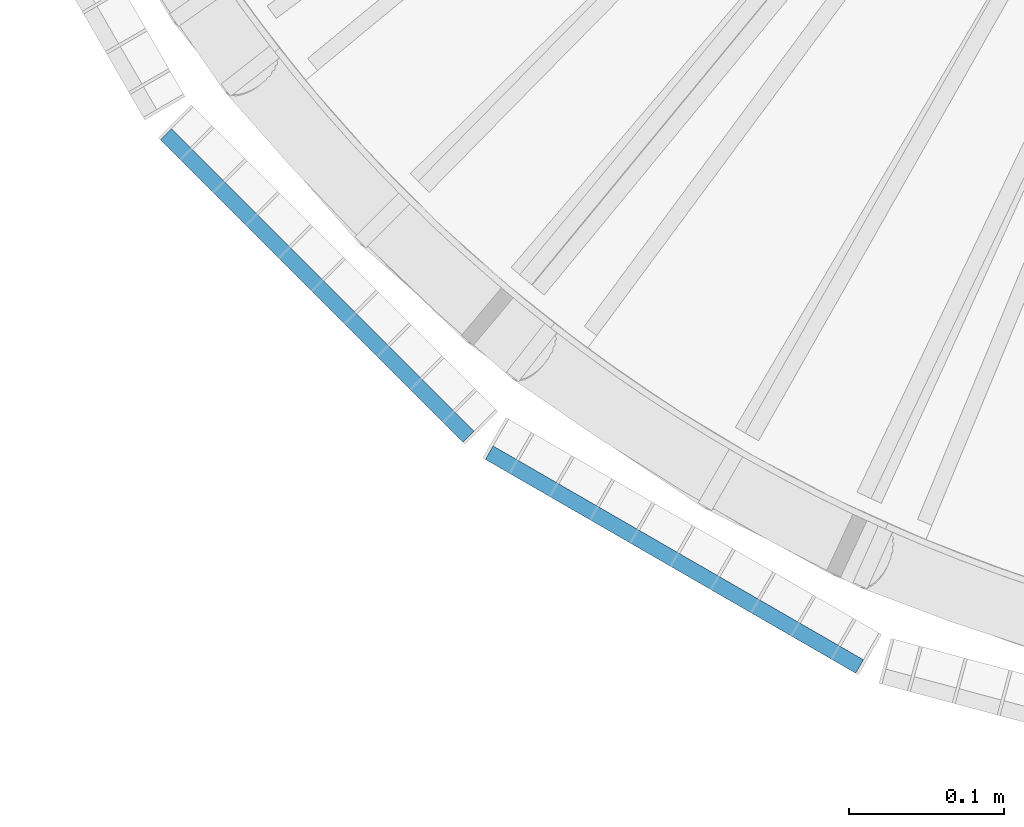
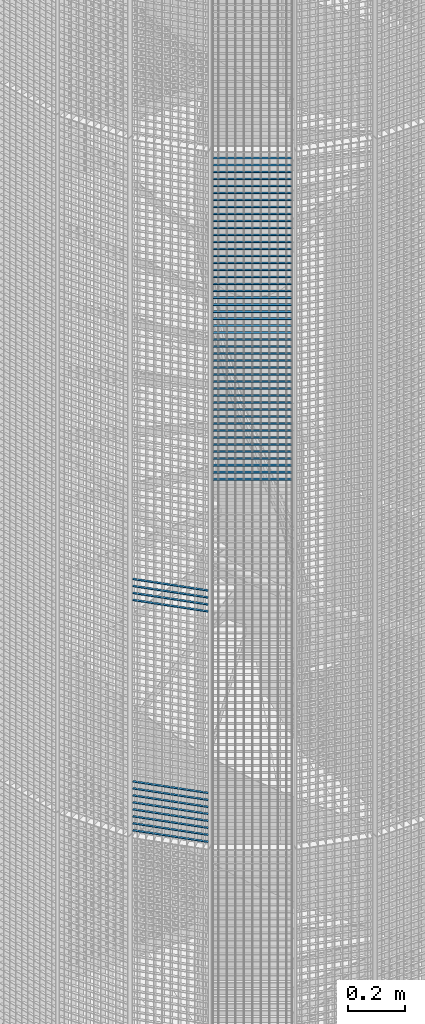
# One storey, part 350 of 1183: 59 beams, 2 elements without a shape of their own.
"""IFC2X3 building model written with IfcOpenShell, lengths in millimetres."""

from ifc_helpers import new_model, si_unit, frame, origin_with_axes, origin_2d_with_axis, place, context, subcontext, project, spatial, rectangle, extrude, material, type_object, element, aggregate, save


model = new_model("IFC2X3")

# Units and contexts
model_context = context("Model", 3, precision=1e-05, world=origin_with_axes())
body_context = subcontext(model_context, "Body", "Model", "MODEL_VIEW")
ifc_project = project(units=[si_unit("LENGTHUNIT", "METRE", prefix="MILLI"), si_unit("AREAUNIT", "SQUARE_METRE"), si_unit("VOLUMEUNIT", "CUBIC_METRE"), si_unit("MASSUNIT", "GRAM", prefix="KILO"), si_unit("TIMEUNIT", "SECOND"), si_unit("PLANEANGLEUNIT", "RADIAN"), si_unit("SOLIDANGLEUNIT", "STERADIAN"), si_unit("THERMODYNAMICTEMPERATUREUNIT", "DEGREE_CELSIUS"), si_unit("LUMINOUSINTENSITYUNIT", "LUMEN")], contexts=[model_context])

# Site, building, storey
site_placement = place(None, origin_with_axes())
site = spatial("IfcSite", under=ifc_project, at=site_placement, Name="Undefined", CompositionType="ELEMENT")
building_placement = place(site_placement, origin_with_axes())
building = spatial("IfcBuilding", under=site, at=building_placement, Name="Undefined", CompositionType="ELEMENT")
storey_placement = place(building_placement, origin_with_axes())
storey = spatial("IfcBuildingStorey", under=building, at=storey_placement, Name="Undefined", CompositionType="ELEMENT", Elevation=0.0)

# Assembly, beams
assembly_1_placement = place(storey_placement, origin_with_axes())
assembly_1 = element("IfcElementAssembly", 1, at=assembly_1_placement, inside=storey, Name="BORDURE", AssemblyPlace="NOTDEFINED", PredefinedType="NOTDEFINED")
ifc_material = material(Name="STEEL/S235JR")
beam_type = type_object("IfcBeamType", Name="PL2*10", PredefinedType="NOTDEFINED")
beam_1_placement = place(assembly_1_placement, frame((20910.2286510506, -884.927168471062, 12240.0), z_axis=(-0.70710678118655, -0.707106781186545, 0.0), x_axis=(-0.707106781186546, 0.707106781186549, 0.0)))
beam_1 = element("IfcBeam", 2, at=beam_1_placement, type_object=beam_type, material=ifc_material, Name="ENTRETOISE", context=body_context, shape_type="SweptSolid", body=[
    extrude(rectangle(XDim=2.0, YDim=10.0, at=origin_2d_with_axis()), frame((275.999999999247, 9.09494701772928e-13, 1.53210777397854e-14), z_axis=(-1.0, 0.0, 0.0), x_axis=(0.0, -1.0, 0.0)), (0.0, 0.0, 1.0), 276.0),
])
beam_2_placement = place(assembly_1_placement, frame((20910.2286510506, -884.927168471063, 13020.0), z_axis=(-0.70710678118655, -0.707106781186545, 0.0), x_axis=(-0.707106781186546, 0.707106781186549, 0.0)))
beam_2 = element("IfcBeam", 3, at=beam_2_placement, type_object=beam_type, material=ifc_material, Name="ENTRETOISE", context=body_context, shape_type="SweptSolid", body=[
    extrude(rectangle(XDim=2.0, YDim=10.0, at=origin_2d_with_axis()), frame((275.999999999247, 9.09494701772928e-13, 1.53210777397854e-14), z_axis=(-1.0, 0.0, 0.0), x_axis=(0.0, -1.0, 0.0)), (0.0, 0.0, 1.0), 276.0),
])
beam_3_placement = place(assembly_1_placement, frame((20910.2286510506, -884.927168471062, 12210.0), z_axis=(-0.70710678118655, -0.707106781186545, 0.0), x_axis=(-0.707106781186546, 0.707106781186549, 0.0)))
beam_3 = element("IfcBeam", 4, at=beam_3_placement, type_object=beam_type, material=ifc_material, Name="ENTRETOISE", context=body_context, shape_type="SweptSolid", body=[
    extrude(rectangle(XDim=2.0, YDim=10.0, at=origin_2d_with_axis()), frame((275.999999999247, 9.09494701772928e-13, 1.53210777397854e-14), z_axis=(-1.0, 0.0, 0.0), x_axis=(0.0, -1.0, 0.0)), (0.0, 0.0, 1.0), 276.0),
])
beam_4_placement = place(assembly_1_placement, frame((20910.2286510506, -884.927168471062, 12180.0), z_axis=(-0.70710678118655, -0.707106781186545, 0.0), x_axis=(-0.707106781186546, 0.707106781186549, 0.0)))
beam_4 = element("IfcBeam", 5, at=beam_4_placement, type_object=beam_type, material=ifc_material, Name="ENTRETOISE", context=body_context, shape_type="SweptSolid", body=[
    extrude(rectangle(XDim=2.0, YDim=10.0, at=origin_2d_with_axis()), frame((275.999999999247, 9.09494701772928e-13, 1.53210777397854e-14), z_axis=(-1.0, 0.0, 0.0), x_axis=(0.0, -1.0, 0.0)), (0.0, 0.0, 1.0), 276.0),
])
beam_5_placement = place(assembly_1_placement, frame((20910.2286510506, -884.927168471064, 13050.0), z_axis=(-0.70710678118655, -0.707106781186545, 0.0), x_axis=(-0.707106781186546, 0.707106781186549, 0.0)))
beam_5 = element("IfcBeam", 6, at=beam_5_placement, type_object=beam_type, material=ifc_material, Name="ENTRETOISE", context=body_context, shape_type="SweptSolid", body=[
    extrude(rectangle(XDim=2.0, YDim=10.0, at=origin_2d_with_axis()), frame((275.999999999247, 9.09494701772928e-13, 1.53210777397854e-14), z_axis=(-1.0, 0.0, 0.0), x_axis=(0.0, -1.0, 0.0)), (0.0, 0.0, 1.0), 276.0),
])
beam_6_placement = place(assembly_1_placement, frame((20910.2286510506, -884.927168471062, 12150.0), z_axis=(-0.70710678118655, -0.707106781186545, 0.0), x_axis=(-0.707106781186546, 0.707106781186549, 0.0)))
beam_6 = element("IfcBeam", 7, at=beam_6_placement, type_object=beam_type, material=ifc_material, Name="ENTRETOISE", context=body_context, shape_type="SweptSolid", body=[
    extrude(rectangle(XDim=2.0, YDim=10.0, at=origin_2d_with_axis()), frame((275.999999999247, 9.09494701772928e-13, 1.53210777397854e-14), z_axis=(-1.0, 0.0, 0.0), x_axis=(0.0, -1.0, 0.0)), (0.0, 0.0, 1.0), 276.0),
])
beam_7_placement = place(assembly_1_placement, frame((20910.2286510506, -884.927168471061, 12120.0), z_axis=(-0.70710678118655, -0.707106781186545, 0.0), x_axis=(-0.707106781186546, 0.707106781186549, 0.0)))
beam_7 = element("IfcBeam", 8, at=beam_7_placement, type_object=beam_type, material=ifc_material, Name="ENTRETOISE", context=body_context, shape_type="SweptSolid", body=[
    extrude(rectangle(XDim=2.0, YDim=10.0, at=origin_2d_with_axis()), frame((275.999999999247, 9.09494701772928e-13, 1.53210777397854e-14), z_axis=(-1.0, 0.0, 0.0), x_axis=(0.0, -1.0, 0.0)), (0.0, 0.0, 1.0), 276.0),
])
beam_8_placement = place(assembly_1_placement, frame((20910.2286510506, -884.927168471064, 13080.0), z_axis=(-0.70710678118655, -0.707106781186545, 0.0), x_axis=(-0.707106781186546, 0.707106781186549, 0.0)))
beam_8 = element("IfcBeam", 9, at=beam_8_placement, type_object=beam_type, material=ifc_material, Name="ENTRETOISE", context=body_context, shape_type="SweptSolid", body=[
    extrude(rectangle(XDim=2.0, YDim=10.0, at=origin_2d_with_axis()), frame((275.999999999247, 9.09494701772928e-13, 1.53210777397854e-14), z_axis=(-1.0, 0.0, 0.0), x_axis=(0.0, -1.0, 0.0)), (0.0, 0.0, 1.0), 276.0),
])
beam_9_placement = place(assembly_1_placement, frame((20910.2286510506, -884.927168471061, 12090.0), z_axis=(-0.70710678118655, -0.707106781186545, 0.0), x_axis=(-0.707106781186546, 0.707106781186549, 0.0)))
beam_9 = element("IfcBeam", 10, at=beam_9_placement, type_object=beam_type, material=ifc_material, Name="ENTRETOISE", context=body_context, shape_type="SweptSolid", body=[
    extrude(rectangle(XDim=2.0, YDim=10.0, at=origin_2d_with_axis()), frame((275.999999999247, 9.09494701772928e-13, 1.53210777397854e-14), z_axis=(-1.0, 0.0, 0.0), x_axis=(0.0, -1.0, 0.0)), (0.0, 0.0, 1.0), 276.0),
])
beam_10_placement = place(assembly_1_placement, frame((20910.2286510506, -884.927168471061, 12060.0), z_axis=(-0.70710678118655, -0.707106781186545, 0.0), x_axis=(-0.707106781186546, 0.707106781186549, 0.0)))
beam_10 = element("IfcBeam", 11, at=beam_10_placement, type_object=beam_type, material=ifc_material, Name="ENTRETOISE", context=body_context, shape_type="SweptSolid", body=[
    extrude(rectangle(XDim=2.0, YDim=10.0, at=origin_2d_with_axis()), frame((275.999999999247, 9.09494701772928e-13, 1.53210777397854e-14), z_axis=(-1.0, 0.0, 0.0), x_axis=(0.0, -1.0, 0.0)), (0.0, 0.0, 1.0), 276.0),
])
beam_11_placement = place(assembly_1_placement, frame((20910.2286510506, -884.927168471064, 13110.0), z_axis=(-0.70710678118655, -0.707106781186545, 0.0), x_axis=(-0.707106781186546, 0.707106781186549, 0.0)))
beam_11 = element("IfcBeam", 12, at=beam_11_placement, type_object=beam_type, material=ifc_material, Name="ENTRETOISE", context=body_context, shape_type="SweptSolid", body=[
    extrude(rectangle(XDim=2.0, YDim=10.0, at=origin_2d_with_axis()), frame((275.999999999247, 9.09494701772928e-13, 1.53210777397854e-14), z_axis=(-1.0, 0.0, 0.0), x_axis=(0.0, -1.0, 0.0)), (0.0, 0.0, 1.0), 276.0),
])
beam_12_placement = place(assembly_1_placement, frame((20910.2286510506, -884.92716847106, 12030.0), z_axis=(-0.70710678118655, -0.707106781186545, 0.0), x_axis=(-0.707106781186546, 0.707106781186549, 0.0)))
beam_12 = element("IfcBeam", 13, at=beam_12_placement, type_object=beam_type, material=ifc_material, Name="ENTRETOISE", context=body_context, shape_type="SweptSolid", body=[
    extrude(rectangle(XDim=2.0, YDim=10.0, at=origin_2d_with_axis()), frame((275.999999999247, 9.09494701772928e-13, 1.53210777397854e-14), z_axis=(-1.0, 0.0, 0.0), x_axis=(0.0, -1.0, 0.0)), (0.0, 0.0, 1.0), 276.0),
])
aggregate(assembly_1, [beam_1, beam_2, beam_3, beam_4, beam_5, beam_6, beam_7, beam_8, beam_9, beam_10, beam_11, beam_12])

assembly_2_placement = place(storey_placement, origin_with_axes())
assembly_2 = element("IfcElementAssembly", 14, at=assembly_2_placement, inside=storey, Name="BORDURE", AssemblyPlace="NOTDEFINED", PredefinedType="NOTDEFINED")
beam_13_placement = place(assembly_2_placement, frame((21162.7680445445, -1033.29996828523, 14970.0), z_axis=(-0.49999999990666, -0.866025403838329, 0.0), x_axis=(-0.866025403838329, 0.499999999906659, 0.0)))
beam_13 = element("IfcBeam", 15, at=beam_13_placement, type_object=beam_type, material=ifc_material, Name="ENTRETOISE", context=body_context, shape_type="SweptSolid", body=[
    extrude(rectangle(XDim=2.0, YDim=10.0, at=origin_2d_with_axis()), frame((275.999999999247, 9.09494701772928e-13, 1.53210777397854e-14), z_axis=(-1.0, 0.0, 0.0), x_axis=(0.0, -1.0, 0.0)), (0.0, 0.0, 1.0), 276.0),
])
beam_14_placement = place(assembly_2_placement, frame((21162.7680445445, -1033.29996828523, 14940.0), z_axis=(-0.49999999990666, -0.866025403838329, 0.0), x_axis=(-0.866025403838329, 0.499999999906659, 0.0)))
beam_14 = element("IfcBeam", 16, at=beam_14_placement, type_object=beam_type, material=ifc_material, Name="ENTRETOISE", context=body_context, shape_type="SweptSolid", body=[
    extrude(rectangle(XDim=2.0, YDim=10.0, at=origin_2d_with_axis()), frame((275.999999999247, 9.09494701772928e-13, 1.53210777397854e-14), z_axis=(-1.0, 0.0, 0.0), x_axis=(0.0, -1.0, 0.0)), (0.0, 0.0, 1.0), 276.0),
])
beam_15_placement = place(assembly_2_placement, frame((21162.7680445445, -1033.29996828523, 14910.0), z_axis=(-0.49999999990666, -0.866025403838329, 0.0), x_axis=(-0.866025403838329, 0.499999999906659, 0.0)))
beam_15 = element("IfcBeam", 17, at=beam_15_placement, type_object=beam_type, material=ifc_material, Name="ENTRETOISE", context=body_context, shape_type="SweptSolid", body=[
    extrude(rectangle(XDim=2.0, YDim=10.0, at=origin_2d_with_axis()), frame((275.999999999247, 9.09494701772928e-13, 1.53210777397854e-14), z_axis=(-1.0, 0.0, 0.0), x_axis=(0.0, -1.0, 0.0)), (0.0, 0.0, 1.0), 276.0),
])
beam_16_placement = place(assembly_2_placement, frame((21162.7680445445, -1033.29996828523, 14880.0), z_axis=(-0.49999999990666, -0.866025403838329, 0.0), x_axis=(-0.866025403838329, 0.499999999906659, 0.0)))
beam_16 = element("IfcBeam", 18, at=beam_16_placement, type_object=beam_type, material=ifc_material, Name="ENTRETOISE", context=body_context, shape_type="SweptSolid", body=[
    extrude(rectangle(XDim=2.0, YDim=10.0, at=origin_2d_with_axis()), frame((275.999999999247, 9.09494701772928e-13, 1.53210777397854e-14), z_axis=(-1.0, 0.0, 0.0), x_axis=(0.0, -1.0, 0.0)), (0.0, 0.0, 1.0), 276.0),
])
beam_17_placement = place(assembly_2_placement, frame((21162.7680445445, -1033.29996828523, 14850.0), z_axis=(-0.49999999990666, -0.866025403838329, 0.0), x_axis=(-0.866025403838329, 0.499999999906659, 0.0)))
beam_17 = element("IfcBeam", 19, at=beam_17_placement, type_object=beam_type, material=ifc_material, Name="ENTRETOISE", context=body_context, shape_type="SweptSolid", body=[
    extrude(rectangle(XDim=2.0, YDim=10.0, at=origin_2d_with_axis()), frame((275.999999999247, 9.09494701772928e-13, 1.53210777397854e-14), z_axis=(-1.0, 0.0, 0.0), x_axis=(0.0, -1.0, 0.0)), (0.0, 0.0, 1.0), 276.0),
])
beam_18_placement = place(assembly_2_placement, frame((21162.7680445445, -1033.29996828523, 14820.0), z_axis=(-0.49999999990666, -0.866025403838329, 0.0), x_axis=(-0.866025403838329, 0.499999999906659, 0.0)))
beam_18 = element("IfcBeam", 20, at=beam_18_placement, type_object=beam_type, material=ifc_material, Name="ENTRETOISE", context=body_context, shape_type="SweptSolid", body=[
    extrude(rectangle(XDim=2.0, YDim=10.0, at=origin_2d_with_axis()), frame((275.999999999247, 9.09494701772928e-13, 1.53210777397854e-14), z_axis=(-1.0, 0.0, 0.0), x_axis=(0.0, -1.0, 0.0)), (0.0, 0.0, 1.0), 276.0),
])
beam_19_placement = place(assembly_2_placement, frame((21162.7680445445, -1033.29996828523, 14790.0), z_axis=(-0.49999999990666, -0.866025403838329, 0.0), x_axis=(-0.866025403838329, 0.499999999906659, 0.0)))
beam_19 = element("IfcBeam", 21, at=beam_19_placement, type_object=beam_type, material=ifc_material, Name="ENTRETOISE", context=body_context, shape_type="SweptSolid", body=[
    extrude(rectangle(XDim=2.0, YDim=10.0, at=origin_2d_with_axis()), frame((275.999999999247, 9.09494701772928e-13, 1.53210777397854e-14), z_axis=(-1.0, 0.0, 0.0), x_axis=(0.0, -1.0, 0.0)), (0.0, 0.0, 1.0), 276.0),
])
beam_20_placement = place(assembly_2_placement, frame((21162.7680445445, -1033.29996828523, 14760.0), z_axis=(-0.49999999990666, -0.866025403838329, 0.0), x_axis=(-0.866025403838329, 0.499999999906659, 0.0)))
beam_20 = element("IfcBeam", 22, at=beam_20_placement, type_object=beam_type, material=ifc_material, Name="ENTRETOISE", context=body_context, shape_type="SweptSolid", body=[
    extrude(rectangle(XDim=2.0, YDim=10.0, at=origin_2d_with_axis()), frame((275.999999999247, 9.09494701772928e-13, 1.53210777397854e-14), z_axis=(-1.0, 0.0, 0.0), x_axis=(0.0, -1.0, 0.0)), (0.0, 0.0, 1.0), 276.0),
])
beam_21_placement = place(assembly_2_placement, frame((21162.7680445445, -1033.29996828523, 14730.0), z_axis=(-0.49999999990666, -0.866025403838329, 0.0), x_axis=(-0.866025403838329, 0.499999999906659, 0.0)))
beam_21 = element("IfcBeam", 23, at=beam_21_placement, type_object=beam_type, material=ifc_material, Name="ENTRETOISE", context=body_context, shape_type="SweptSolid", body=[
    extrude(rectangle(XDim=2.0, YDim=10.0, at=origin_2d_with_axis()), frame((275.999999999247, 9.09494701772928e-13, 1.53210777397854e-14), z_axis=(-1.0, 0.0, 0.0), x_axis=(0.0, -1.0, 0.0)), (0.0, 0.0, 1.0), 276.0),
])
beam_22_placement = place(assembly_2_placement, frame((21162.7680445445, -1033.29996828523, 14700.0), z_axis=(-0.49999999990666, -0.866025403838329, 0.0), x_axis=(-0.866025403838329, 0.499999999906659, 0.0)))
beam_22 = element("IfcBeam", 24, at=beam_22_placement, type_object=beam_type, material=ifc_material, Name="ENTRETOISE", context=body_context, shape_type="SweptSolid", body=[
    extrude(rectangle(XDim=2.0, YDim=10.0, at=origin_2d_with_axis()), frame((275.999999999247, 9.09494701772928e-13, 1.53210777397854e-14), z_axis=(-1.0, 0.0, 0.0), x_axis=(0.0, -1.0, 0.0)), (0.0, 0.0, 1.0), 276.0),
])
beam_23_placement = place(assembly_2_placement, frame((21162.7680445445, -1033.29996828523, 14670.0), z_axis=(-0.49999999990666, -0.866025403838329, 0.0), x_axis=(-0.866025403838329, 0.499999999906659, 0.0)))
beam_23 = element("IfcBeam", 25, at=beam_23_placement, type_object=beam_type, material=ifc_material, Name="ENTRETOISE", context=body_context, shape_type="SweptSolid", body=[
    extrude(rectangle(XDim=2.0, YDim=10.0, at=origin_2d_with_axis()), frame((275.999999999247, 9.09494701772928e-13, 1.53210777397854e-14), z_axis=(-1.0, 0.0, 0.0), x_axis=(0.0, -1.0, 0.0)), (0.0, 0.0, 1.0), 276.0),
])
beam_24_placement = place(assembly_2_placement, frame((21162.7680445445, -1033.29996828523, 14640.0), z_axis=(-0.49999999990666, -0.866025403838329, 0.0), x_axis=(-0.866025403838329, 0.499999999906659, 0.0)))
beam_24 = element("IfcBeam", 26, at=beam_24_placement, type_object=beam_type, material=ifc_material, Name="ENTRETOISE", context=body_context, shape_type="SweptSolid", body=[
    extrude(rectangle(XDim=2.0, YDim=10.0, at=origin_2d_with_axis()), frame((275.999999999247, 9.09494701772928e-13, 1.53210777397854e-14), z_axis=(-1.0, 0.0, 0.0), x_axis=(0.0, -1.0, 0.0)), (0.0, 0.0, 1.0), 276.0),
])
beam_25_placement = place(assembly_2_placement, frame((21162.7680445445, -1033.29996828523, 14610.0), z_axis=(-0.49999999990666, -0.866025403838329, 0.0), x_axis=(-0.866025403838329, 0.499999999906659, 0.0)))
beam_25 = element("IfcBeam", 27, at=beam_25_placement, type_object=beam_type, material=ifc_material, Name="ENTRETOISE", context=body_context, shape_type="SweptSolid", body=[
    extrude(rectangle(XDim=2.0, YDim=10.0, at=origin_2d_with_axis()), frame((275.999999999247, 9.09494701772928e-13, 1.53210777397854e-14), z_axis=(-1.0, 0.0, 0.0), x_axis=(0.0, -1.0, 0.0)), (0.0, 0.0, 1.0), 276.0),
])
beam_26_placement = place(assembly_2_placement, frame((21162.7680445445, -1033.29996828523, 14580.0), z_axis=(-0.49999999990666, -0.866025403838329, 0.0), x_axis=(-0.866025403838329, 0.499999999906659, 0.0)))
beam_26 = element("IfcBeam", 28, at=beam_26_placement, type_object=beam_type, material=ifc_material, Name="ENTRETOISE", context=body_context, shape_type="SweptSolid", body=[
    extrude(rectangle(XDim=2.0, YDim=10.0, at=origin_2d_with_axis()), frame((275.999999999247, 9.09494701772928e-13, 1.53210777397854e-14), z_axis=(-1.0, 0.0, 0.0), x_axis=(0.0, -1.0, 0.0)), (0.0, 0.0, 1.0), 276.0),
])
beam_27_placement = place(assembly_2_placement, frame((21162.7680445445, -1033.29996828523, 14550.0), z_axis=(-0.49999999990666, -0.866025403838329, 0.0), x_axis=(-0.866025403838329, 0.499999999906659, 0.0)))
beam_27 = element("IfcBeam", 29, at=beam_27_placement, type_object=beam_type, material=ifc_material, Name="ENTRETOISE", context=body_context, shape_type="SweptSolid", body=[
    extrude(rectangle(XDim=2.0, YDim=10.0, at=origin_2d_with_axis()), frame((275.999999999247, 9.09494701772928e-13, 1.53210777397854e-14), z_axis=(-1.0, 0.0, 0.0), x_axis=(0.0, -1.0, 0.0)), (0.0, 0.0, 1.0), 276.0),
])
beam_28_placement = place(assembly_2_placement, frame((21162.7680445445, -1033.29996828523, 14520.0), z_axis=(-0.49999999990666, -0.866025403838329, 0.0), x_axis=(-0.866025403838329, 0.499999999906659, 0.0)))
beam_28 = element("IfcBeam", 30, at=beam_28_placement, type_object=beam_type, material=ifc_material, Name="ENTRETOISE", context=body_context, shape_type="SweptSolid", body=[
    extrude(rectangle(XDim=2.0, YDim=10.0, at=origin_2d_with_axis()), frame((275.999999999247, 9.09494701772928e-13, 1.53210777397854e-14), z_axis=(-1.0, 0.0, 0.0), x_axis=(0.0, -1.0, 0.0)), (0.0, 0.0, 1.0), 276.0),
])
beam_29_placement = place(assembly_2_placement, frame((21162.7680445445, -1033.29996828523, 14490.0), z_axis=(-0.49999999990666, -0.866025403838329, 0.0), x_axis=(-0.866025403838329, 0.499999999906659, 0.0)))
beam_29 = element("IfcBeam", 31, at=beam_29_placement, type_object=beam_type, material=ifc_material, Name="ENTRETOISE", context=body_context, shape_type="SweptSolid", body=[
    extrude(rectangle(XDim=2.0, YDim=10.0, at=origin_2d_with_axis()), frame((275.999999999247, 9.09494701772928e-13, 1.53210777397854e-14), z_axis=(-1.0, 0.0, 0.0), x_axis=(0.0, -1.0, 0.0)), (0.0, 0.0, 1.0), 276.0),
])
beam_30_placement = place(assembly_2_placement, frame((21162.7680445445, -1033.29996828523, 14460.0), z_axis=(-0.49999999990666, -0.866025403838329, 0.0), x_axis=(-0.866025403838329, 0.499999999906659, 0.0)))
beam_30 = element("IfcBeam", 32, at=beam_30_placement, type_object=beam_type, material=ifc_material, Name="ENTRETOISE", context=body_context, shape_type="SweptSolid", body=[
    extrude(rectangle(XDim=2.0, YDim=10.0, at=origin_2d_with_axis()), frame((275.999999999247, 9.09494701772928e-13, 1.53210777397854e-14), z_axis=(-1.0, 0.0, 0.0), x_axis=(0.0, -1.0, 0.0)), (0.0, 0.0, 1.0), 276.0),
])
beam_31_placement = place(assembly_2_placement, frame((21162.7680445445, -1033.29996828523, 14430.0), z_axis=(-0.49999999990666, -0.866025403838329, 0.0), x_axis=(-0.866025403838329, 0.499999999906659, 0.0)))
beam_31 = element("IfcBeam", 33, at=beam_31_placement, type_object=beam_type, material=ifc_material, Name="ENTRETOISE", context=body_context, shape_type="SweptSolid", body=[
    extrude(rectangle(XDim=2.0, YDim=10.0, at=origin_2d_with_axis()), frame((275.999999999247, 9.09494701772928e-13, 1.53210777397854e-14), z_axis=(-1.0, 0.0, 0.0), x_axis=(0.0, -1.0, 0.0)), (0.0, 0.0, 1.0), 276.0),
])
beam_32_placement = place(assembly_2_placement, frame((21162.7680445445, -1033.29996828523, 14400.0), z_axis=(-0.49999999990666, -0.866025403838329, 0.0), x_axis=(-0.866025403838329, 0.499999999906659, 0.0)))
beam_32 = element("IfcBeam", 34, at=beam_32_placement, type_object=beam_type, material=ifc_material, Name="ENTRETOISE", context=body_context, shape_type="SweptSolid", body=[
    extrude(rectangle(XDim=2.0, YDim=10.0, at=origin_2d_with_axis()), frame((275.999999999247, 9.09494701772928e-13, 1.53210777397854e-14), z_axis=(-1.0, 0.0, 0.0), x_axis=(0.0, -1.0, 0.0)), (0.0, 0.0, 1.0), 276.0),
])
beam_33_placement = place(assembly_2_placement, frame((21162.7680445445, -1033.29996828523, 14370.0), z_axis=(-0.49999999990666, -0.866025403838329, 0.0), x_axis=(-0.866025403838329, 0.499999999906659, 0.0)))
beam_33 = element("IfcBeam", 35, at=beam_33_placement, type_object=beam_type, material=ifc_material, Name="ENTRETOISE", context=body_context, shape_type="SweptSolid", body=[
    extrude(rectangle(XDim=2.0, YDim=10.0, at=origin_2d_with_axis()), frame((275.999999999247, 9.09494701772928e-13, 1.53210777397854e-14), z_axis=(-1.0, 0.0, 0.0), x_axis=(0.0, -1.0, 0.0)), (0.0, 0.0, 1.0), 276.0),
])
beam_34_placement = place(assembly_2_placement, frame((21162.7680445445, -1033.29996828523, 14340.0), z_axis=(-0.49999999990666, -0.866025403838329, 0.0), x_axis=(-0.866025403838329, 0.499999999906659, 0.0)))
beam_34 = element("IfcBeam", 36, at=beam_34_placement, type_object=beam_type, material=ifc_material, Name="ENTRETOISE", context=body_context, shape_type="SweptSolid", body=[
    extrude(rectangle(XDim=2.0, YDim=10.0, at=origin_2d_with_axis()), frame((275.999999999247, 9.09494701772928e-13, 1.53210777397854e-14), z_axis=(-1.0, 0.0, 0.0), x_axis=(0.0, -1.0, 0.0)), (0.0, 0.0, 1.0), 276.0),
])
beam_35_placement = place(assembly_2_placement, frame((21162.7680445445, -1033.29996828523, 14310.0), z_axis=(-0.49999999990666, -0.866025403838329, 0.0), x_axis=(-0.866025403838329, 0.499999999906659, 0.0)))
beam_35 = element("IfcBeam", 37, at=beam_35_placement, type_object=beam_type, material=ifc_material, Name="ENTRETOISE", context=body_context, shape_type="SweptSolid", body=[
    extrude(rectangle(XDim=2.0, YDim=10.0, at=origin_2d_with_axis()), frame((275.999999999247, 9.09494701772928e-13, 1.53210777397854e-14), z_axis=(-1.0, 0.0, 0.0), x_axis=(0.0, -1.0, 0.0)), (0.0, 0.0, 1.0), 276.0),
])
beam_36_placement = place(assembly_2_placement, frame((21162.7680445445, -1033.29996828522, 14280.0), z_axis=(-0.49999999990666, -0.866025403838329, 0.0), x_axis=(-0.866025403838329, 0.499999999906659, 0.0)))
beam_36 = element("IfcBeam", 38, at=beam_36_placement, type_object=beam_type, material=ifc_material, Name="ENTRETOISE", context=body_context, shape_type="SweptSolid", body=[
    extrude(rectangle(XDim=2.0, YDim=10.0, at=origin_2d_with_axis()), frame((275.999999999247, 9.09494701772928e-13, 1.53210777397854e-14), z_axis=(-1.0, 0.0, 0.0), x_axis=(0.0, -1.0, 0.0)), (0.0, 0.0, 1.0), 276.0),
])
beam_37_placement = place(assembly_2_placement, frame((21162.7680445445, -1033.29996828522, 14250.0), z_axis=(-0.49999999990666, -0.866025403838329, 0.0), x_axis=(-0.866025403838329, 0.499999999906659, 0.0)))
beam_37 = element("IfcBeam", 39, at=beam_37_placement, type_object=beam_type, material=ifc_material, Name="ENTRETOISE", context=body_context, shape_type="SweptSolid", body=[
    extrude(rectangle(XDim=2.0, YDim=10.0, at=origin_2d_with_axis()), frame((275.999999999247, 9.09494701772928e-13, 1.53210777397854e-14), z_axis=(-1.0, 0.0, 0.0), x_axis=(0.0, -1.0, 0.0)), (0.0, 0.0, 1.0), 276.0),
])
beam_38_placement = place(assembly_2_placement, frame((21162.7680445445, -1033.29996828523, 14220.0), z_axis=(-0.49999999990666, -0.866025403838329, 0.0), x_axis=(-0.866025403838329, 0.499999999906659, 0.0)))
beam_38 = element("IfcBeam", 40, at=beam_38_placement, type_object=beam_type, material=ifc_material, Name="ENTRETOISE", context=body_context, shape_type="SweptSolid", body=[
    extrude(rectangle(XDim=2.0, YDim=10.0, at=origin_2d_with_axis()), frame((275.999999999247, 9.09494701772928e-13, 1.53210777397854e-14), z_axis=(-1.0, 0.0, 0.0), x_axis=(0.0, -1.0, 0.0)), (0.0, 0.0, 1.0), 276.0),
])
beam_39_placement = place(assembly_2_placement, frame((21162.7680445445, -1033.29996828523, 14190.0), z_axis=(-0.49999999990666, -0.866025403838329, 0.0), x_axis=(-0.866025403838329, 0.499999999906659, 0.0)))
beam_39 = element("IfcBeam", 41, at=beam_39_placement, type_object=beam_type, material=ifc_material, Name="ENTRETOISE", context=body_context, shape_type="SweptSolid", body=[
    extrude(rectangle(XDim=2.0, YDim=10.0, at=origin_2d_with_axis()), frame((275.999999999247, 9.09494701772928e-13, 1.53210777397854e-14), z_axis=(-1.0, 0.0, 0.0), x_axis=(0.0, -1.0, 0.0)), (0.0, 0.0, 1.0), 276.0),
])
beam_40_placement = place(assembly_2_placement, frame((21162.7680445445, -1033.29996828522, 14160.0), z_axis=(-0.49999999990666, -0.866025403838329, 0.0), x_axis=(-0.866025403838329, 0.499999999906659, 0.0)))
beam_40 = element("IfcBeam", 42, at=beam_40_placement, type_object=beam_type, material=ifc_material, Name="ENTRETOISE", context=body_context, shape_type="SweptSolid", body=[
    extrude(rectangle(XDim=2.0, YDim=10.0, at=origin_2d_with_axis()), frame((275.999999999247, 9.09494701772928e-13, 1.53210777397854e-14), z_axis=(-1.0, 0.0, 0.0), x_axis=(0.0, -1.0, 0.0)), (0.0, 0.0, 1.0), 276.0),
])
beam_41_placement = place(assembly_2_placement, frame((21162.7680445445, -1033.29996828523, 14130.0), z_axis=(-0.49999999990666, -0.866025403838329, 0.0), x_axis=(-0.866025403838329, 0.499999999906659, 0.0)))
beam_41 = element("IfcBeam", 43, at=beam_41_placement, type_object=beam_type, material=ifc_material, Name="ENTRETOISE", context=body_context, shape_type="SweptSolid", body=[
    extrude(rectangle(XDim=2.0, YDim=10.0, at=origin_2d_with_axis()), frame((275.999999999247, 9.09494701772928e-13, 1.53210777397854e-14), z_axis=(-1.0, 0.0, 0.0), x_axis=(0.0, -1.0, 0.0)), (0.0, 0.0, 1.0), 276.0),
])
beam_42_placement = place(assembly_2_placement, frame((21162.7680445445, -1033.29996828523, 14100.0), z_axis=(-0.49999999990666, -0.866025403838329, 0.0), x_axis=(-0.866025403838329, 0.499999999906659, 0.0)))
beam_42 = element("IfcBeam", 44, at=beam_42_placement, type_object=beam_type, material=ifc_material, Name="ENTRETOISE", context=body_context, shape_type="SweptSolid", body=[
    extrude(rectangle(XDim=2.0, YDim=10.0, at=origin_2d_with_axis()), frame((275.999999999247, 9.09494701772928e-13, 1.53210777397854e-14), z_axis=(-1.0, 0.0, 0.0), x_axis=(0.0, -1.0, 0.0)), (0.0, 0.0, 1.0), 276.0),
])
beam_43_placement = place(assembly_2_placement, frame((21162.7680445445, -1033.29996828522, 14070.0), z_axis=(-0.49999999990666, -0.866025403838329, 0.0), x_axis=(-0.866025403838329, 0.499999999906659, 0.0)))
beam_43 = element("IfcBeam", 45, at=beam_43_placement, type_object=beam_type, material=ifc_material, Name="ENTRETOISE", context=body_context, shape_type="SweptSolid", body=[
    extrude(rectangle(XDim=2.0, YDim=10.0, at=origin_2d_with_axis()), frame((275.999999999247, 9.09494701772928e-13, 1.53210777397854e-14), z_axis=(-1.0, 0.0, 0.0), x_axis=(0.0, -1.0, 0.0)), (0.0, 0.0, 1.0), 276.0),
])
beam_44_placement = place(assembly_2_placement, frame((21162.7680445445, -1033.29996828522, 14040.0), z_axis=(-0.49999999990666, -0.866025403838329, 0.0), x_axis=(-0.866025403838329, 0.499999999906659, 0.0)))
beam_44 = element("IfcBeam", 46, at=beam_44_placement, type_object=beam_type, material=ifc_material, Name="ENTRETOISE", context=body_context, shape_type="SweptSolid", body=[
    extrude(rectangle(XDim=2.0, YDim=10.0, at=origin_2d_with_axis()), frame((275.999999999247, 9.09494701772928e-13, 1.53210777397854e-14), z_axis=(-1.0, 0.0, 0.0), x_axis=(0.0, -1.0, 0.0)), (0.0, 0.0, 1.0), 276.0),
])
beam_45_placement = place(assembly_2_placement, frame((21162.7680445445, -1033.29996828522, 14010.0), z_axis=(-0.49999999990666, -0.866025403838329, 0.0), x_axis=(-0.866025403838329, 0.499999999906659, 0.0)))
beam_45 = element("IfcBeam", 47, at=beam_45_placement, type_object=beam_type, material=ifc_material, Name="ENTRETOISE", context=body_context, shape_type="SweptSolid", body=[
    extrude(rectangle(XDim=2.0, YDim=10.0, at=origin_2d_with_axis()), frame((275.999999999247, 9.09494701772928e-13, 1.53210777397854e-14), z_axis=(-1.0, 0.0, 0.0), x_axis=(0.0, -1.0, 0.0)), (0.0, 0.0, 1.0), 276.0),
])
beam_46_placement = place(assembly_2_placement, frame((21162.7680445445, -1033.29996828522, 13980.0), z_axis=(-0.49999999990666, -0.866025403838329, 0.0), x_axis=(-0.866025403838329, 0.499999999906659, 0.0)))
beam_46 = element("IfcBeam", 48, at=beam_46_placement, type_object=beam_type, material=ifc_material, Name="ENTRETOISE", context=body_context, shape_type="SweptSolid", body=[
    extrude(rectangle(XDim=2.0, YDim=10.0, at=origin_2d_with_axis()), frame((275.999999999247, 9.09494701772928e-13, 1.53210777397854e-14), z_axis=(-1.0, 0.0, 0.0), x_axis=(0.0, -1.0, 0.0)), (0.0, 0.0, 1.0), 276.0),
])
beam_47_placement = place(assembly_2_placement, frame((21162.7680445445, -1033.29996828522, 13950.0), z_axis=(-0.49999999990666, -0.866025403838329, 0.0), x_axis=(-0.866025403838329, 0.499999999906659, 0.0)))
beam_47 = element("IfcBeam", 49, at=beam_47_placement, type_object=beam_type, material=ifc_material, Name="ENTRETOISE", context=body_context, shape_type="SweptSolid", body=[
    extrude(rectangle(XDim=2.0, YDim=10.0, at=origin_2d_with_axis()), frame((275.999999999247, 9.09494701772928e-13, 1.53210777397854e-14), z_axis=(-1.0, 0.0, 0.0), x_axis=(0.0, -1.0, 0.0)), (0.0, 0.0, 1.0), 276.0),
])
beam_48_placement = place(assembly_2_placement, frame((21162.7680445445, -1033.29996828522, 13920.0), z_axis=(-0.49999999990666, -0.866025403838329, 0.0), x_axis=(-0.866025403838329, 0.499999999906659, 0.0)))
beam_48 = element("IfcBeam", 50, at=beam_48_placement, type_object=beam_type, material=ifc_material, Name="ENTRETOISE", context=body_context, shape_type="SweptSolid", body=[
    extrude(rectangle(XDim=2.0, YDim=10.0, at=origin_2d_with_axis()), frame((275.999999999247, 9.09494701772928e-13, 1.53210777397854e-14), z_axis=(-1.0, 0.0, 0.0), x_axis=(0.0, -1.0, 0.0)), (0.0, 0.0, 1.0), 276.0),
])
beam_49_placement = place(assembly_2_placement, frame((21162.7680445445, -1033.29996828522, 13890.0), z_axis=(-0.49999999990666, -0.866025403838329, 0.0), x_axis=(-0.866025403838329, 0.499999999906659, 0.0)))
beam_49 = element("IfcBeam", 51, at=beam_49_placement, type_object=beam_type, material=ifc_material, Name="ENTRETOISE", context=body_context, shape_type="SweptSolid", body=[
    extrude(rectangle(XDim=2.0, YDim=10.0, at=origin_2d_with_axis()), frame((275.999999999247, 9.09494701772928e-13, 1.53210777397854e-14), z_axis=(-1.0, 0.0, 0.0), x_axis=(0.0, -1.0, 0.0)), (0.0, 0.0, 1.0), 276.0),
])
beam_50_placement = place(assembly_2_placement, frame((21162.7680445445, -1033.29996828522, 13860.0), z_axis=(-0.49999999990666, -0.866025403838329, 0.0), x_axis=(-0.866025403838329, 0.499999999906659, 0.0)))
beam_50 = element("IfcBeam", 52, at=beam_50_placement, type_object=beam_type, material=ifc_material, Name="ENTRETOISE", context=body_context, shape_type="SweptSolid", body=[
    extrude(rectangle(XDim=2.0, YDim=10.0, at=origin_2d_with_axis()), frame((275.999999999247, 9.09494701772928e-13, 1.53210777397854e-14), z_axis=(-1.0, 0.0, 0.0), x_axis=(0.0, -1.0, 0.0)), (0.0, 0.0, 1.0), 276.0),
])
beam_51_placement = place(assembly_2_placement, frame((21162.7680445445, -1033.29996828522, 13830.0), z_axis=(-0.49999999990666, -0.866025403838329, 0.0), x_axis=(-0.866025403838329, 0.499999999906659, 0.0)))
beam_51 = element("IfcBeam", 53, at=beam_51_placement, type_object=beam_type, material=ifc_material, Name="ENTRETOISE", context=body_context, shape_type="SweptSolid", body=[
    extrude(rectangle(XDim=2.0, YDim=10.0, at=origin_2d_with_axis()), frame((275.999999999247, 9.09494701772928e-13, 1.53210777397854e-14), z_axis=(-1.0, 0.0, 0.0), x_axis=(0.0, -1.0, 0.0)), (0.0, 0.0, 1.0), 276.0),
])
beam_52_placement = place(assembly_2_placement, frame((21162.7680445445, -1033.29996828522, 13800.0), z_axis=(-0.49999999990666, -0.866025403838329, 0.0), x_axis=(-0.866025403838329, 0.499999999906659, 0.0)))
beam_52 = element("IfcBeam", 54, at=beam_52_placement, type_object=beam_type, material=ifc_material, Name="ENTRETOISE", context=body_context, shape_type="SweptSolid", body=[
    extrude(rectangle(XDim=2.0, YDim=10.0, at=origin_2d_with_axis()), frame((275.999999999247, 9.09494701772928e-13, 1.53210777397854e-14), z_axis=(-1.0, 0.0, 0.0), x_axis=(0.0, -1.0, 0.0)), (0.0, 0.0, 1.0), 276.0),
])
beam_53_placement = place(assembly_2_placement, frame((21162.7680445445, -1033.29996828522, 13770.0), z_axis=(-0.49999999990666, -0.866025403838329, 0.0), x_axis=(-0.866025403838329, 0.499999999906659, 0.0)))
beam_53 = element("IfcBeam", 55, at=beam_53_placement, type_object=beam_type, material=ifc_material, Name="ENTRETOISE", context=body_context, shape_type="SweptSolid", body=[
    extrude(rectangle(XDim=2.0, YDim=10.0, at=origin_2d_with_axis()), frame((275.999999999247, 9.09494701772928e-13, 1.53210777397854e-14), z_axis=(-1.0, 0.0, 0.0), x_axis=(0.0, -1.0, 0.0)), (0.0, 0.0, 1.0), 276.0),
])
beam_54_placement = place(assembly_2_placement, frame((21162.7680445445, -1033.29996828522, 13740.0), z_axis=(-0.49999999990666, -0.866025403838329, 0.0), x_axis=(-0.866025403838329, 0.499999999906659, 0.0)))
beam_54 = element("IfcBeam", 56, at=beam_54_placement, type_object=beam_type, material=ifc_material, Name="ENTRETOISE", context=body_context, shape_type="SweptSolid", body=[
    extrude(rectangle(XDim=2.0, YDim=10.0, at=origin_2d_with_axis()), frame((275.999999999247, 9.09494701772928e-13, 1.53210777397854e-14), z_axis=(-1.0, 0.0, 0.0), x_axis=(0.0, -1.0, 0.0)), (0.0, 0.0, 1.0), 276.0),
])
beam_55_placement = place(assembly_2_placement, frame((21162.7680445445, -1033.29996828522, 13710.0), z_axis=(-0.49999999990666, -0.866025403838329, 0.0), x_axis=(-0.866025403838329, 0.499999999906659, 0.0)))
beam_55 = element("IfcBeam", 57, at=beam_55_placement, type_object=beam_type, material=ifc_material, Name="ENTRETOISE", context=body_context, shape_type="SweptSolid", body=[
    extrude(rectangle(XDim=2.0, YDim=10.0, at=origin_2d_with_axis()), frame((275.999999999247, 9.09494701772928e-13, 1.53210777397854e-14), z_axis=(-1.0, 0.0, 0.0), x_axis=(0.0, -1.0, 0.0)), (0.0, 0.0, 1.0), 276.0),
])
beam_56_placement = place(assembly_2_placement, frame((21162.7680445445, -1033.29996828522, 13680.0), z_axis=(-0.49999999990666, -0.866025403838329, 0.0), x_axis=(-0.866025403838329, 0.499999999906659, 0.0)))
beam_56 = element("IfcBeam", 58, at=beam_56_placement, type_object=beam_type, material=ifc_material, Name="ENTRETOISE", context=body_context, shape_type="SweptSolid", body=[
    extrude(rectangle(XDim=2.0, YDim=10.0, at=origin_2d_with_axis()), frame((275.999999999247, 9.09494701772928e-13, 1.53210777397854e-14), z_axis=(-1.0, 0.0, 0.0), x_axis=(0.0, -1.0, 0.0)), (0.0, 0.0, 1.0), 276.0),
])
beam_57_placement = place(assembly_2_placement, frame((21162.7680445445, -1033.29996828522, 13650.0), z_axis=(-0.49999999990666, -0.866025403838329, 0.0), x_axis=(-0.866025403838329, 0.499999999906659, 0.0)))
beam_57 = element("IfcBeam", 59, at=beam_57_placement, type_object=beam_type, material=ifc_material, Name="ENTRETOISE", context=body_context, shape_type="SweptSolid", body=[
    extrude(rectangle(XDim=2.0, YDim=10.0, at=origin_2d_with_axis()), frame((275.999999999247, 9.09494701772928e-13, 1.53210777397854e-14), z_axis=(-1.0, 0.0, 0.0), x_axis=(0.0, -1.0, 0.0)), (0.0, 0.0, 1.0), 276.0),
])
beam_58_placement = place(assembly_2_placement, frame((21162.7680445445, -1033.29996828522, 13620.0), z_axis=(-0.49999999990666, -0.866025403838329, 0.0), x_axis=(-0.866025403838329, 0.499999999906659, 0.0)))
beam_58 = element("IfcBeam", 60, at=beam_58_placement, type_object=beam_type, material=ifc_material, Name="ENTRETOISE", context=body_context, shape_type="SweptSolid", body=[
    extrude(rectangle(XDim=2.0, YDim=10.0, at=origin_2d_with_axis()), frame((275.999999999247, 9.09494701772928e-13, 1.53210777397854e-14), z_axis=(-1.0, 0.0, 0.0), x_axis=(0.0, -1.0, 0.0)), (0.0, 0.0, 1.0), 276.0),
])
beam_59_placement = place(assembly_2_placement, frame((21162.7680445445, -1033.29996828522, 13590.0), z_axis=(-0.49999999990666, -0.866025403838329, 0.0), x_axis=(-0.866025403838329, 0.499999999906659, 0.0)))
beam_59 = element("IfcBeam", 61, at=beam_59_placement, type_object=beam_type, material=ifc_material, Name="ENTRETOISE", context=body_context, shape_type="SweptSolid", body=[
    extrude(rectangle(XDim=2.0, YDim=10.0, at=origin_2d_with_axis()), frame((275.999999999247, 9.09494701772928e-13, 1.53210777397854e-14), z_axis=(-1.0, 0.0, 0.0), x_axis=(0.0, -1.0, 0.0)), (0.0, 0.0, 1.0), 276.0),
])
aggregate(assembly_2, [beam_13, beam_14, beam_15, beam_16, beam_17, beam_18, beam_19, beam_20, beam_21, beam_22, beam_23, beam_24, beam_25, beam_26, beam_27, beam_28, beam_29, beam_30, beam_31, beam_32, beam_33, beam_34, beam_35, beam_36, beam_37, beam_38, beam_39, beam_40, beam_41, beam_42, beam_43, beam_44, beam_45, beam_46, beam_47, beam_48, beam_49, beam_50, beam_51, beam_52, beam_53, beam_54, beam_55, beam_56, beam_57, beam_58, beam_59])

save(model, "model.ifc")
